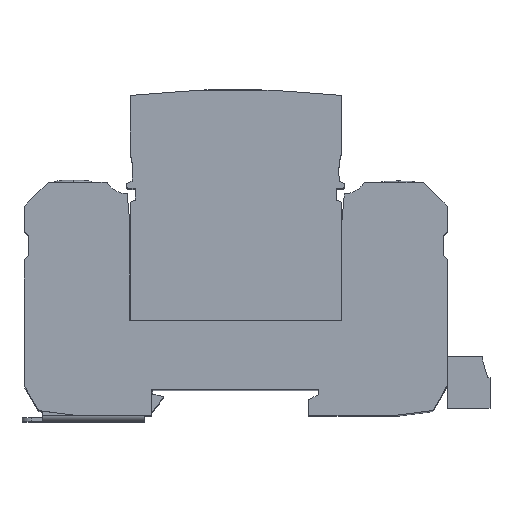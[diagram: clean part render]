
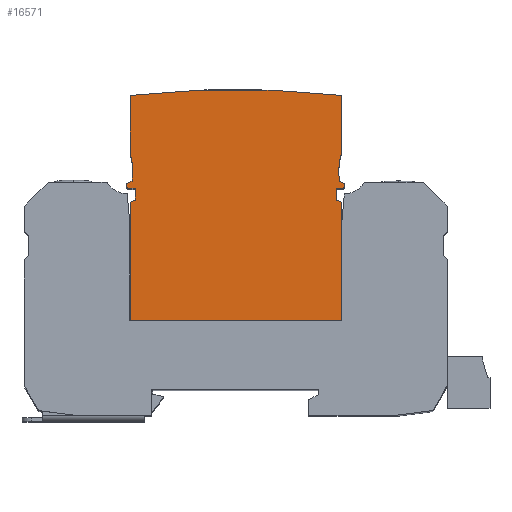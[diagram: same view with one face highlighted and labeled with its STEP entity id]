
A CAD part, top view. The second image highlights one B-rep face of the part: STEP entity #16571.
In plain terms, the highlighted planar face has unit normal (0, 0, 1).
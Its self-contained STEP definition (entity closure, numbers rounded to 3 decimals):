
#16009=DIRECTION('',(-1.,0.,0.));
#16010=VECTOR('',#16009,44.865);
#16011=CARTESIAN_POINT('',(67.832,21.5,
-0.138));
#16012=LINE('',#16011,#16010);
#16013=DIRECTION('',(0.,1.,0.));
#16014=VECTOR('',#16013,25.088);
#16015=CARTESIAN_POINT('',(22.967,21.5,
-0.138));
#16016=LINE('',#16015,#16014);
#16017=DIRECTION('',(0.94,0.342,0.));
#16018=VECTOR('',#16017,1.152);
#16019=CARTESIAN_POINT('',(22.967,46.588,
-0.138));
#16020=LINE('',#16019,#16018);
#16021=DIRECTION('',(0.,1.,0.));
#16022=VECTOR('',#16021,2.456);
#16023=CARTESIAN_POINT('',(24.049,46.982,
-0.138));
#16024=LINE('',#16023,#16022);
#16025=DIRECTION('',(-0.996,0.087,0.));
#16026=VECTOR('',#16025,1.857);
#16027=CARTESIAN_POINT('',(24.049,49.438,
-0.138));
#16028=LINE('',#16027,#16026);
#16029=DIRECTION('',(0.,1.,0.));
#16030=VECTOR('',#16029,0.9);
#16031=CARTESIAN_POINT('',(22.199,49.6,
-0.138));
#16032=LINE('',#16031,#16030);
#16033=DIRECTION('',(0.914,0.407,0.));
#16034=VECTOR('',#16033,1.284);
#16035=CARTESIAN_POINT('',(22.199,50.5,
-0.138));
#16036=LINE('',#16035,#16034);
#16037=CARTESIAN_POINT('',(9.517,53.031,
-0.138));
#16038=DIRECTION('',(0.,0.,1.));
#16039=DIRECTION('',(0.99,-0.144,0.));
#16040=AXIS2_PLACEMENT_3D('',#16037,#16038,#16039);
#16042=CARTESIAN_POINT('',(9.517,53.031,
-0.138));
#16043=DIRECTION('',(0.,0.,1.));
#16044=DIRECTION('',(1.,0.,0.));
#16045=AXIS2_PLACEMENT_3D('',#16042,#16043,#16044);
#16047=DIRECTION('',(0.,1.,0.));
#16048=VECTOR('',#16047,12.318);
#16049=CARTESIAN_POINT('',(22.967,56.917,
-0.138));
#16050=LINE('',#16049,#16048);
#16051=CARTESIAN_POINT('',(45.399,-129.504,
-0.138));
#16052=DIRECTION('',(0.,0.,-1.));
#16053=DIRECTION('',(-0.112,0.994,0.));
#16054=AXIS2_PLACEMENT_3D('',#16051,#16052,#16053);
#16056=DIRECTION('',(0.,-1.,0.));
#16057=VECTOR('',#16056,12.318);
#16058=CARTESIAN_POINT('',(67.832,69.234,
-0.138));
#16059=LINE('',#16058,#16057);
#16060=CARTESIAN_POINT('',(81.282,53.031,
-0.138));
#16061=DIRECTION('',(0.,0.,1.));
#16062=DIRECTION('',(-0.961,0.278,0.));
#16063=AXIS2_PLACEMENT_3D('',#16060,#16061,#16062);
#16065=CARTESIAN_POINT('',(81.282,53.031,
-0.138));
#16066=DIRECTION('',(0.,0.,1.));
#16067=DIRECTION('',(-1.,0.,0.));
#16068=AXIS2_PLACEMENT_3D('',#16065,#16066,#16067);
#16070=DIRECTION('',(0.914,-0.407,0.));
#16071=VECTOR('',#16070,1.284);
#16072=CARTESIAN_POINT('',(67.427,51.022,
-0.138));
#16073=LINE('',#16072,#16071);
#16074=DIRECTION('',(0.,-1.,0.));
#16075=VECTOR('',#16074,0.897);
#16076=CARTESIAN_POINT('',(68.599,50.5,
-0.138));
#16077=LINE('',#16076,#16075);
#16078=DIRECTION('',(-0.996,-0.087,0.));
#16079=VECTOR('',#16078,1.857);
#16080=CARTESIAN_POINT('',(68.599,49.603,
-0.138));
#16081=LINE('',#16080,#16079);
#16082=DIRECTION('',(0.,-1.,0.));
#16083=VECTOR('',#16082,2.459);
#16084=CARTESIAN_POINT('',(66.749,49.441,
-0.138));
#16085=LINE('',#16084,#16083);
#16086=DIRECTION('',(0.94,-0.342,0.));
#16087=VECTOR('',#16086,1.152);
#16088=CARTESIAN_POINT('',(66.749,46.982,
-0.138));
#16089=LINE('',#16088,#16087);
#16090=DIRECTION('',(0.,-1.,0.));
#16091=VECTOR('',#16090,25.088);
#16092=CARTESIAN_POINT('',(67.832,46.588,
-0.138));
#16093=LINE('',#16092,#16091);
#16234=CARTESIAN_POINT('',(23.372,51.022,
-0.138));
#16235=VERTEX_POINT('',#16234);
#16236=CARTESIAN_POINT('',(22.199,50.5,
-0.138));
#16237=VERTEX_POINT('',#16236);
#16274=CARTESIAN_POINT('',(67.832,21.5,
-0.138));
#16275=VERTEX_POINT('',#16274);
#16276=CARTESIAN_POINT('',(67.832,46.588,
-0.138));
#16277=VERTEX_POINT('',#16276);
#16278=CARTESIAN_POINT('',(22.967,21.5,
-0.138));
#16279=VERTEX_POINT('',#16278);
#16280=CARTESIAN_POINT('',(22.967,46.588,
-0.138));
#16281=VERTEX_POINT('',#16280);
#16282=CARTESIAN_POINT('',(24.049,46.982,
-0.138));
#16283=VERTEX_POINT('',#16282);
#16284=CARTESIAN_POINT('',(24.049,49.438,
-0.138));
#16285=VERTEX_POINT('',#16284);
#16286=CARTESIAN_POINT('',(22.199,49.6,
-0.138));
#16287=VERTEX_POINT('',#16286);
#16288=CARTESIAN_POINT('',(23.517,53.031,
-0.138));
#16289=CARTESIAN_POINT('',(22.967,56.917,
-0.138));
#16290=VERTEX_POINT('',#16288);
#16291=VERTEX_POINT('',#16289);
#16292=CARTESIAN_POINT('',(22.967,69.234,
-0.138));
#16293=VERTEX_POINT('',#16292);
#16294=CARTESIAN_POINT('',(67.832,69.234,
-0.138));
#16295=VERTEX_POINT('',#16294);
#16296=CARTESIAN_POINT('',(67.832,56.917,
-0.138));
#16297=VERTEX_POINT('',#16296);
#16298=CARTESIAN_POINT('',(67.282,53.031,
-0.138));
#16299=CARTESIAN_POINT('',(67.427,51.022,
-0.138));
#16300=VERTEX_POINT('',#16298);
#16301=VERTEX_POINT('',#16299);
#16302=CARTESIAN_POINT('',(68.599,50.5,
-0.138));
#16303=VERTEX_POINT('',#16302);
#16304=CARTESIAN_POINT('',(68.599,49.603,
-0.138));
#16305=VERTEX_POINT('',#16304);
#16306=CARTESIAN_POINT('',(66.749,49.441,
-0.138));
#16307=VERTEX_POINT('',#16306);
#16308=CARTESIAN_POINT('',(66.749,46.982,
-0.138));
#16309=VERTEX_POINT('',#16308);
#16536=CARTESIAN_POINT('',(0.,0.,-0.138));
#16537=DIRECTION('',(0.,0.,1.));
#16538=DIRECTION('',(1.,0.,0.));
#16539=AXIS2_PLACEMENT_3D('',#16536,#16537,#16538);
#16540=PLANE('',#16539);
#16541=ORIENTED_EDGE('',*,*,#16415,.T.);
#16542=ORIENTED_EDGE('',*,*,#16429,.T.);
#16543=ORIENTED_EDGE('',*,*,#16443,.T.);
#16544=ORIENTED_EDGE('',*,*,#16457,.T.);
#16545=ORIENTED_EDGE('',*,*,#16471,.T.);
#16546=ORIENTED_EDGE('',*,*,#16485,.T.);
#16547=ORIENTED_EDGE('',*,*,#16499,.T.);
#16548=ORIENTED_EDGE('',*,*,#16516,.T.);
#16549=ORIENTED_EDGE('',*,*,#16514,.T.);
#16550=ORIENTED_EDGE('',*,*,#16527,.T.);
#16552=ORIENTED_EDGE('',*,*,#16551,.T.);
#16553=ORIENTED_EDGE('',*,*,#16338,.T.);
#16555=ORIENTED_EDGE('',*,*,#16554,.T.);
#16557=ORIENTED_EDGE('',*,*,#16556,.T.);
#16559=ORIENTED_EDGE('',*,*,#16558,.T.);
#16561=ORIENTED_EDGE('',*,*,#16560,.T.);
#16563=ORIENTED_EDGE('',*,*,#16562,.T.);
#16565=ORIENTED_EDGE('',*,*,#16564,.T.);
#16567=ORIENTED_EDGE('',*,*,#16566,.T.);
#16568=ORIENTED_EDGE('',*,*,#16400,.T.);
#16569=EDGE_LOOP('',(#16541,#16542,#16543,#16544,#16545,#16546,#16547,#16548,
#16549,#16550,#16552,#16553,#16555,#16557,#16559,#16561,#16563,#16565,#16567,
#16568));
#16570=FACE_OUTER_BOUND('',#16569,.F.);
#16041=CIRCLE('',#16040,14.);
#16046=CIRCLE('',#16045,14.);
#16055=CIRCLE('',#16054,200.);
#16064=CIRCLE('',#16063,14.);
#16069=CIRCLE('',#16068,14.);
#16338=EDGE_CURVE('',#16295,#16297,#16059,.T.);
#16400=EDGE_CURVE('',#16277,#16275,#16093,.T.);
#16415=EDGE_CURVE('',#16275,#16279,#16012,.T.);
#16429=EDGE_CURVE('',#16279,#16281,#16016,.T.);
#16443=EDGE_CURVE('',#16281,#16283,#16020,.T.);
#16457=EDGE_CURVE('',#16283,#16285,#16024,.T.);
#16471=EDGE_CURVE('',#16285,#16287,#16028,.T.);
#16485=EDGE_CURVE('',#16287,#16237,#16032,.T.);
#16499=EDGE_CURVE('',#16237,#16235,#16036,.T.);
#16514=EDGE_CURVE('',#16290,#16291,#16046,.T.);
#16516=EDGE_CURVE('',#16235,#16290,#16041,.T.);
#16527=EDGE_CURVE('',#16291,#16293,#16050,.T.);
#16551=EDGE_CURVE('',#16293,#16295,#16055,.T.);
#16554=EDGE_CURVE('',#16297,#16300,#16064,.T.);
#16556=EDGE_CURVE('',#16300,#16301,#16069,.T.);
#16558=EDGE_CURVE('',#16301,#16303,#16073,.T.);
#16560=EDGE_CURVE('',#16303,#16305,#16077,.T.);
#16562=EDGE_CURVE('',#16305,#16307,#16081,.T.);
#16564=EDGE_CURVE('',#16307,#16309,#16085,.T.);
#16566=EDGE_CURVE('',#16309,#16277,#16089,.T.);
#16571=ADVANCED_FACE('',(#16570),#16540,.T.);
